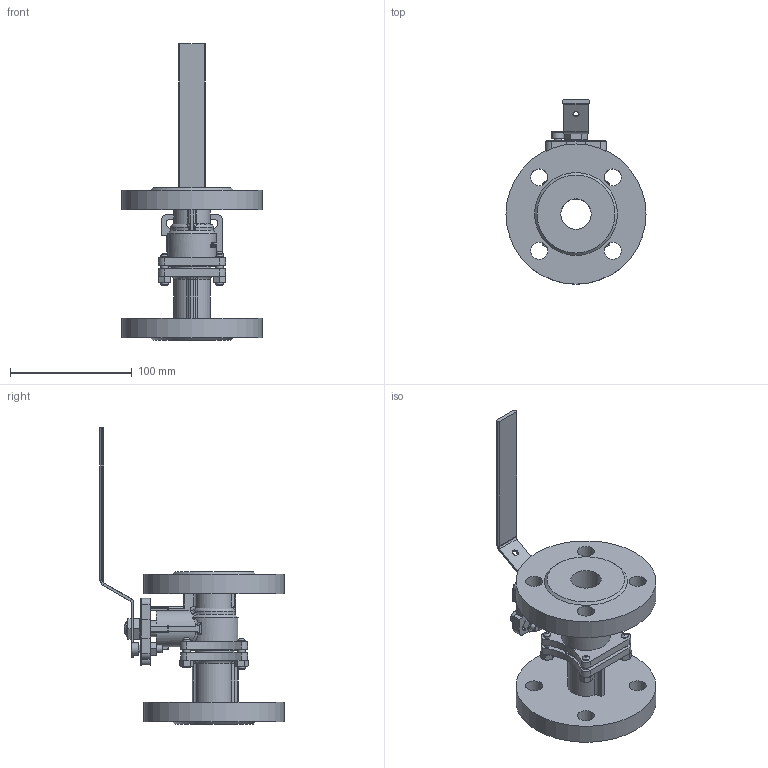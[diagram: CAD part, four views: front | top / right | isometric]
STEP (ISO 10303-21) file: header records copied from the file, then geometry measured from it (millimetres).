
FILE_DESCRIPTION(('STEP AP242'), '1');
FILE_NAME('BV3232P(2pc)-FP-F-ISO-H Êðàí øàðîâîé DN.ru Äó25 Ðó40', '', ('UNSPECIFIED'), ('UNSPECIFIED'), 'C3D Converter', 'C3D Toolkit', '');
FILE_SCHEMA(('AP242_MANAGED_MODEL_BASED_3D_ENGINEERING_MIM_LF { 1 0 10303 442 1 1 4 }'));
Length unit declared in the file: millimetre
Products named in the file (1): BV3232P(2pc)-FP-F-ISO-H
Bounding box: 115 x 151.18 x 243.19 mm (x, y, z)
Volume: 420135.1 mm3; surface area: 117552.1 mm2
Topology: 8 solids, 8 shells, 683 faces, 1682 edges, 1053 vertices
Faces by surface type: plane 333, cylinder 167, cone 85, bspline 68, torus 21, sphere 9
Full cylindrical faces by diameter (mm): 4.917 x1, 5 x9, 6 x10, 10 x1, 12 x1, 13 x1, 14 x9, 15 x1, 16 x1, 17.147 x1, 21.286 x1, 25 x5, 30 x4, 32 x2, 38 x2, 115 x2
Entity records: 35755 total; most frequent: CARTESIAN_POINT 16752, ORIENTED_EDGE 3180, DIRECTION 2929, EDGE_CURVE 1590, AXIS2_PLACEMENT_3D 1084, VERTEX_POINT 1040, EDGE_LOOP 864, FACE_BOUND 762
